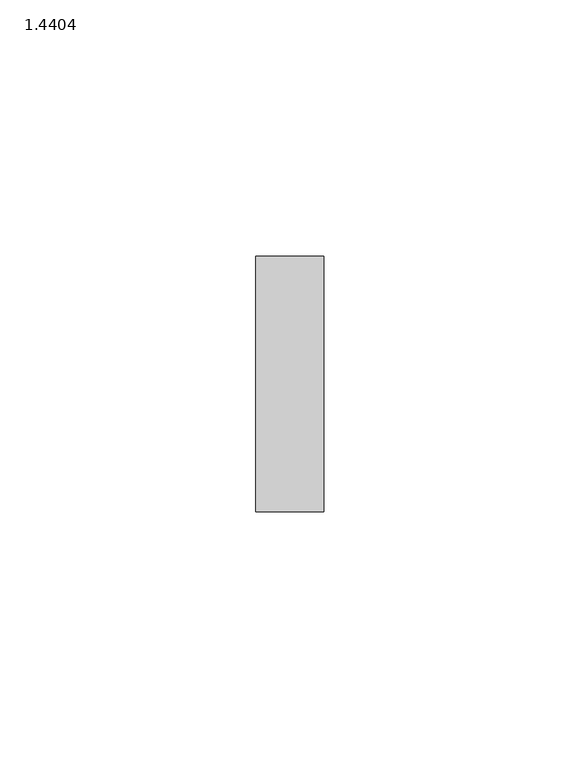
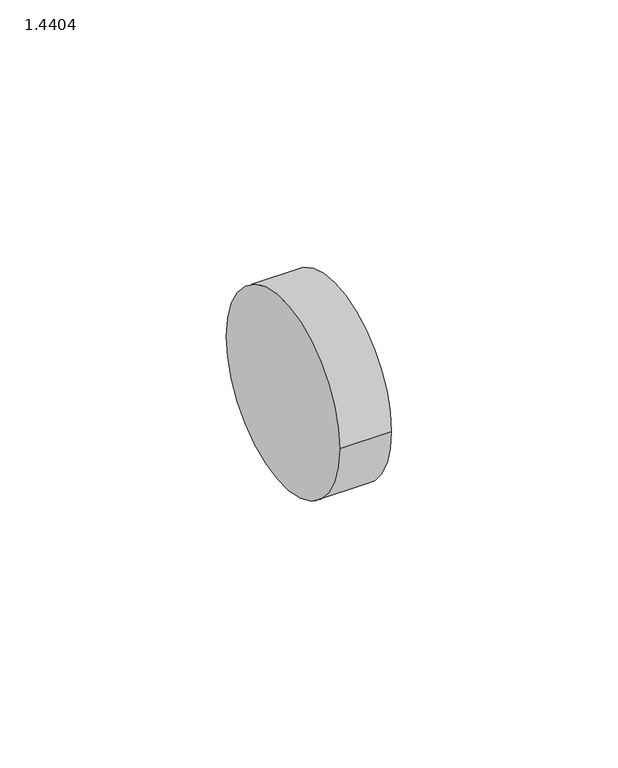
"""IFC4 building model written with IfcOpenShell, lengths in millimetres: pipe fitting geometry, PIF_ST_UN_ACO pipe straight coupling_ACO : 1.4404."""

import ifcopenshell
import ifcopenshell.guid

model = None  # the IFC model being written
_history = None  # IfcOwnerHistory: only IFC2X3 demands one
_inside = {}  # id of a spatial element -> (the spatial element, [elements in it])
_under = {}  # id of a project, library or spatial element -> (it, [spatial elements below it])
_declared = {}  # id of a project -> (the project, [libraries it declares])
_typed = {}  # id of a type object -> (the type object, [elements of that type])
_made_of = {}  # id of a material, layer set ... -> (it, [elements and type objects made of it])


def new_model(schema):
    """Start an empty IFC model of exactly this schema.

    Asked for "IFC4X3", IfcOpenShell would pick the latest addendum, in which some entities
    have other attributes; the version numbers below select the first issue.
    IFC2X3 requires an IfcOwnerHistory on every rooted entity: one is made here for all.
    """
    global model, _history
    if schema == "IFC4X3":
        model = ifcopenshell.file(schema_version=(4, 3, 0, 0))
    else:
        model = ifcopenshell.file(schema=schema)
    _inside.clear()
    _under.clear()
    _declared.clear()
    _typed.clear()
    _made_of.clear()
    _history = None
    if model.schema == "IFC2X3":
        org = make("IfcOrganization", Name="unknown")
        user = make(
            "IfcPersonAndOrganization",
            ThePerson=make("IfcPerson", FamilyName="unknown"),
            TheOrganization=org,
        )
        app = make(
            "IfcApplication",
            ApplicationDeveloper=org,
            Version="unknown",
            ApplicationFullName="unknown",
            ApplicationIdentifier="unknown",
        )
        _history = make(
            "IfcOwnerHistory",
            OwningUser=user,
            OwningApplication=app,
            ChangeAction="ADDED",
            CreationDate=0,
        )
    return model


def make(cls, **values):
    """One entity of the class cls with the attributes given. An attribute that is None is left unset."""
    return model.create_entity(
        cls, **{name: value for name, value in values.items() if value is not None}
    )


def rooted(cls, **values):
    """An entity with a GlobalId (a new one), such as an element, a storey or a relation."""
    return make(cls, GlobalId=ifcopenshell.guid.new(), OwnerHistory=_history, **values)


def si_unit(unit_type, name, prefix=None):
    """IfcSIUnit, for example si_unit("LENGTHUNIT", "METRE", prefix="MILLI")."""
    return make("IfcSIUnit", UnitType=unit_type, Prefix=prefix, Name=name)


def assignment(units):
    """IfcUnitAssignment: the units of a project."""
    return None if units is None else make("IfcUnitAssignment", Units=units)


def point(xyz):
    """IfcCartesianPoint."""
    return None if xyz is None else make("IfcCartesianPoint", Coordinates=xyz)


def direction(xyz):
    """IfcDirection."""
    return None if xyz is None else make("IfcDirection", DirectionRatios=xyz)


def frame(location, z_axis=None, x_axis=None):
    """IfcAxis2Placement3D, a coordinate frame: its origin and axes. An axis left out is left unset."""
    return make(
        "IfcAxis2Placement3D",
        Location=point(location),
        Axis=direction(z_axis),
        RefDirection=direction(x_axis),
    )


def frame_2d(location, x_axis=None):
    """IfcAxis2Placement2D, a coordinate frame in the plane: its origin and x axis."""
    return make(
        "IfcAxis2Placement2D", Location=point(location), RefDirection=direction(x_axis)
    )


def origin():
    """The frame at (0, 0, 0) with its axes left unset."""
    return frame((0.0, 0.0, 0.0))


def origin_2d():
    """The frame at (0, 0) in the plane with its x axis left unset."""
    return frame_2d((0.0, 0.0))


def place(relative_to, where):
    """IfcLocalPlacement: puts the frame where relative to a parent placement (None: the world)."""
    return make(
        "IfcLocalPlacement", PlacementRelTo=relative_to, RelativePlacement=where
    )


def context(
    kind, dimensions, precision=None, world=None, true_north=None, identifier=None
):
    """IfcGeometricRepresentationContext, for example the 3D "Model" context."""
    return make(
        "IfcGeometricRepresentationContext",
        ContextIdentifier=identifier,
        ContextType=kind,
        CoordinateSpaceDimension=dimensions,
        Precision=precision,
        WorldCoordinateSystem=world,
        TrueNorth=true_north,
    )


def project(units=None, contexts=None):
    """IfcProject with its units and contexts."""
    return rooted(
        "IfcProject",
        Name="project",
        RepresentationContexts=contexts,
        UnitsInContext=assignment(units),
    )


def spatial(cls, under=None, at=None, **own):
    """A site, building, storey or space (cls), placed at a placement, below another one or the project."""
    s = rooted(cls, ObjectPlacement=at, **own)
    if under is not None:
        _under.setdefault(under.id(), (under, []))[1].append(s)
    return s


def circle_curve(where, radius):
    """IfcCircle in the frame where."""
    return make("IfcCircle", Position=where, Radius=radius)


def trimmed(basis, trim1, trim2, sense, master):
    """IfcTrimmedCurve: the piece of a basis curve between two trims."""
    return make(
        "IfcTrimmedCurve",
        BasisCurve=basis,
        Trim1=trim1,
        Trim2=trim2,
        SenseAgreement=sense,
        MasterRepresentation=master,
    )


def segment(curve, same_sense, transition):
    """IfcCompositeCurveSegment."""
    return make(
        "IfcCompositeCurveSegment",
        Transition=transition,
        SameSense=same_sense,
        ParentCurve=curve,
    )


def composite_curve(segments, self_intersect=None):
    """IfcCompositeCurve: segments joined end to end."""
    return make("IfcCompositeCurve", Segments=segments, SelfIntersect=self_intersect)


def outline(outer, holes=None, kind="AREA"):
    """IfcArbitraryClosedProfileDef: a profile drawn as a closed curve; with holes, ...WithVoids."""
    if holes is None:
        return make("IfcArbitraryClosedProfileDef", ProfileType=kind, OuterCurve=outer)
    return make(
        "IfcArbitraryProfileDefWithVoids",
        ProfileType=kind,
        OuterCurve=outer,
        InnerCurves=holes,
    )


def extrude(swept, where, along, depth):
    """IfcExtrudedAreaSolid: the profile swept, set in the frame where, extruded along a direction by depth."""
    return make(
        "IfcExtrudedAreaSolid",
        SweptArea=swept,
        Position=where,
        ExtrudedDirection=direction(along),
        Depth=depth,
    )


def shape(context_of_items, identifier, shape_type, items):
    """IfcShapeRepresentation: the items that make up one representation, for example the "Body"."""
    return make(
        "IfcShapeRepresentation",
        ContextOfItems=context_of_items,
        RepresentationIdentifier=identifier,
        RepresentationType=shape_type,
        Items=items,
    )


def source(mapping_origin, context_of_items, identifier, shape_type, items):
    """IfcRepresentationMap: a shape defined once, which mapped items show again and again."""
    return make(
        "IfcRepresentationMap",
        MappingOrigin=mapping_origin,
        MappedRepresentation=shape(context_of_items, identifier, shape_type, items),
    )


def transform(
    local_origin,
    x_axis=None,
    y_axis=None,
    z_axis=None,
    scale=None,
    scale2=None,
    scale3=None,
    uniform=True,
):
    """IfcCartesianTransformationOperator3D, or its non-uniform kind. x_axis, y_axis, z_axis: its Axis1, 2, 3."""
    if uniform:
        return make(
            "IfcCartesianTransformationOperator3D",
            Axis1=direction(x_axis),
            Axis2=direction(y_axis),
            LocalOrigin=point(local_origin),
            Scale=scale,
            Axis3=direction(z_axis),
        )
    return make(
        "IfcCartesianTransformationOperator3DnonUniform",
        Axis1=direction(x_axis),
        Axis2=direction(y_axis),
        LocalOrigin=point(local_origin),
        Scale=scale,
        Axis3=direction(z_axis),
        Scale2=scale2,
        Scale3=scale3,
    )


def mapped(mapping_source, mapping_target):
    """IfcMappedItem: shows the shape of a source again, moved by a transform."""
    return make(
        "IfcMappedItem", MappingSource=mapping_source, MappingTarget=mapping_target
    )


def made_of(thing, what):
    """Note that an element or type object is made of a material, layer set ...; save() writes the relation."""
    if what is not None:
        _made_of.setdefault(what.id(), (what, []))[1].append(thing)
    return thing


def element(
    cls,
    number,
    at=None,
    inside=None,
    cuts=None,
    type_object=None,
    material=None,
    context=None,
    identifier="Body",
    shape_type=None,
    held_by="IfcProductDefinitionShape",
    body=None,
    shapes=None,
    **own,
):
    """One element of the class cls, such as IfcWall. Its Tag is "e" and its number.

    at: its placement. inside: the storey or other place that contains it. cuts: it is an
    opening in that element (IfcRelVoidsElement). A single representation is given by context,
    identifier, shape_type and body (its items); several are given by shapes. held_by: the class
    of the entity that holds the representations. save() writes the other relations.
    """
    e = rooted(cls, Tag="e%d" % number, ObjectPlacement=at, **own)
    if body is not None:
        shapes = [shape(context, identifier, shape_type, body)]
    if shapes is not None:
        e.Representation = make(held_by, Representations=shapes)
    if inside is not None:
        _inside.setdefault(inside.id(), (inside, []))[1].append(e)
    if cuts is not None:
        rooted(
            "IfcRelVoidsElement", RelatingBuildingElement=cuts, RelatedOpeningElement=e
        )
    if type_object is not None:
        _typed.setdefault(type_object.id(), (type_object, []))[1].append(e)
    return made_of(e, material)


def aggregate(whole, parts):
    """IfcRelAggregates: a whole, such as a stair, and the parts it consists of."""
    return rooted("IfcRelAggregates", RelatingObject=whole, RelatedObjects=parts)


def save(model, path):
    """Write the relations noted so far, then the file.

    IfcRelAggregates (storeys below a building ...), IfcRelContainedInSpatialStructure (elements
    in a storey), IfcRelDefinesByType, IfcRelAssociatesMaterial and IfcRelDeclares: one each for
    every whole, place, type object, material and project.
    """
    for whole, parts in _under.values():
        aggregate(whole, parts)
    for where, things in _inside.values():
        rooted(
            "IfcRelContainedInSpatialStructure",
            RelatedElements=things,
            RelatingStructure=where,
        )
    for kind, things in _typed.values():
        rooted("IfcRelDefinesByType", RelatedObjects=things, RelatingType=kind)
    for what, things in _made_of.values():
        rooted("IfcRelAssociatesMaterial", RelatedObjects=things, RelatingMaterial=what)
    for by, libraries in _declared.values():
        rooted("IfcRelDeclares", RelatingContext=by, RelatedDefinitions=libraries)
    model.write(path)


def pipe_fitting_1_4404_a6cf7bca(model_context):
    return source(origin(), model_context, "Body", "SweptSolid", [
        extrude(outline(composite_curve([segment(trimmed(circle_curve(origin_2d(), 25.0), [point((-25.0, 0.0))], [point((25.0, 0.0))], False, "CARTESIAN"), True, "CONTINUOUS"), segment(trimmed(circle_curve(origin_2d(), 25.0), [point((25.0, 0.0))], [point((-25.0, 0.0))], False, "CARTESIAN"), True, "CONTINUOUS")], self_intersect=False)), frame((-6.6, 0.0, 0.0), z_axis=(1.0, 0.0, 0.0), x_axis=(0.0, 1.0, 0.0)), (0.0, 0.0, 1.0), 13.2),
    ])


if __name__ == "__main__":
    model = new_model("IFC4")
    model_context = context("Model", 3, world=origin())
    ifc_project = project(units=[si_unit("LENGTHUNIT", "METRE", prefix="MILLI")], contexts=[model_context])
    site = spatial("IfcSite", under=ifc_project)
    building = spatial("IfcBuilding", under=site)
    placement = place(None, origin())
    pipe_fitting_1_4404_shape = pipe_fitting_1_4404_a6cf7bca(model_context)
    element("IfcPipeFitting", 1, ObjectType="PIF_ST_UN_ACO pipe straight coupling_ACO : 1.4404", at=placement, inside=building, context=model_context, shape_type="MappedRepresentation", body=[
        mapped(pipe_fitting_1_4404_shape, transform((0.0, 0.0, 0.0), x_axis=(1.0, 0.0, 0.0), y_axis=(0.0, 1.0, 0.0), z_axis=(0.0, 0.0, 1.0))),
    ])
    save(model, "model.ifc")
